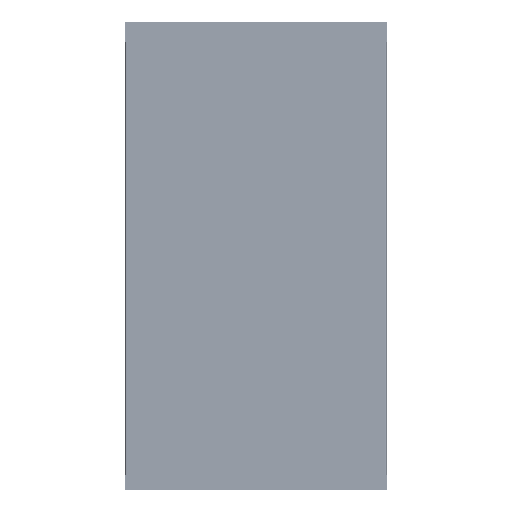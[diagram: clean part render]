
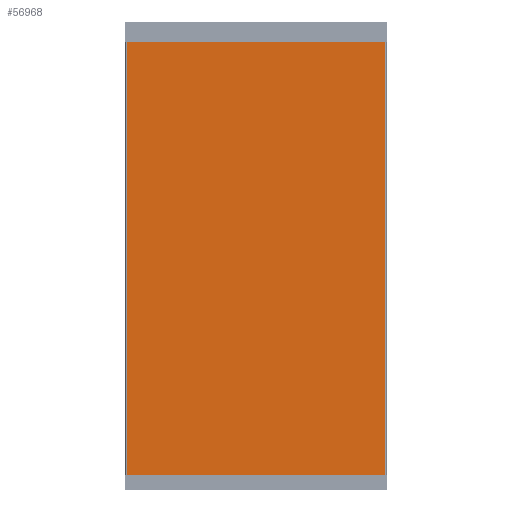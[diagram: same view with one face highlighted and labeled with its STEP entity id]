
A CAD part, front view. The second image highlights one B-rep face of the part: STEP entity #56968.
In plain terms, the highlighted planar face has unit normal (0, -1, 0).
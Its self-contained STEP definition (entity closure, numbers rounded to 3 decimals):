
#1170 = VERTEX_POINT ( 'NONE', #69106 ) ;
#2070 = CARTESIAN_POINT ( 'NONE',  ( -181.5, -2., 467.5 ) ) ;
#2471 = CARTESIAN_POINT ( 'NONE',  ( 168.5, -2., 467.5 ) ) ;
#2779 = CARTESIAN_POINT ( 'NONE',  ( 168.5, -2., 475. ) ) ;
#3852 = EDGE_CURVE ( 'NONE', #39085, #98981, #10652, .T. ) ;
#5085 = VERTEX_POINT ( 'NONE', #6771 ) ;
#5283 = ORIENTED_EDGE ( 'NONE', *, *, #3852, .F. ) ;
#6421 = AXIS2_PLACEMENT_3D ( 'NONE', #71845, #21351, #80336 ) ;
#6771 = CARTESIAN_POINT ( 'NONE',  ( 181.5, -2., 475. ) ) ;
#8157 = CARTESIAN_POINT ( 'NONE',  ( 175., -2., -460. ) ) ;
#8351 = DIRECTION ( 'NONE',  ( 0., 0., 1. ) ) ;
#8492 = VECTOR ( 'NONE', #49710, 1000. ) ;
#8770 = ORIENTED_EDGE ( 'NONE', *, *, #12267, .T. ) ;
#9320 = DIRECTION ( 'NONE',  ( 0., 0., -1. ) ) ;
#10239 = CARTESIAN_POINT ( 'NONE',  ( 175., -2., -466.5 ) ) ;
#10418 = CARTESIAN_POINT ( 'NONE',  ( -168.5, -2., 460. ) ) ;
#10545 = DIRECTION ( 'NONE',  ( 0., 0., -1. ) ) ;
#10652 = LINE ( 'NONE', #17781, #75270 ) ;
#11139 = LINE ( 'NONE', #108651, #8492 ) ;
#12267 = EDGE_CURVE ( 'NONE', #1170, #13888, #50795, .T. ) ;
#12292 = VERTEX_POINT ( 'NONE', #10239 ) ;
#12376 = EDGE_CURVE ( 'NONE', #45506, #13888, #73248, .T. ) ;
#12450 = VECTOR ( 'NONE', #32858, 1000. ) ;
#12583 = ORIENTED_EDGE ( 'NONE', *, *, #12376, .F. ) ;
#13054 = CIRCLE ( 'NONE', #44307, 6.5 ) ;
#13804 = VERTEX_POINT ( 'NONE', #97970 ) ;
#13888 = VERTEX_POINT ( 'NONE', #57431 ) ;
#14505 = ORIENTED_EDGE ( 'NONE', *, *, #30239, .T. ) ;
#14843 = ORIENTED_EDGE ( 'NONE', *, *, #90409, .T. ) ;
#16617 = DIRECTION ( 'NONE',  ( 0., 0., 1. ) ) ;
#17089 = VERTEX_POINT ( 'NONE', #53255 ) ;
#17460 = ORIENTED_EDGE ( 'NONE', *, *, #53588, .T. ) ;
#17643 = LINE ( 'NONE', #87069, #84945 ) ;
#17781 = CARTESIAN_POINT ( 'NONE',  ( 262.5, -2., 0. ) ) ;
#19842 = ORIENTED_EDGE ( 'NONE', *, *, #85511, .T. ) ;
#20862 = CARTESIAN_POINT ( 'NONE',  ( 262.5, -2., -475. ) ) ;
#21122 = DIRECTION ( 'NONE',  ( 0., 1., 0. ) ) ;
#21351 = DIRECTION ( 'NONE',  ( 0., 1., 0. ) ) ;
#22329 = VERTEX_POINT ( 'NONE', #43259 ) ;
#24887 = LINE ( 'NONE', #2070, #109260 ) ;
#26062 = PLANE ( 'NONE',  #34625 ) ;
#26766 = CARTESIAN_POINT ( 'NONE',  ( 262.5, -2., 475. ) ) ;
#26776 = DIRECTION ( 'NONE',  ( 0., 1., 0. ) ) ;
#27289 = VERTEX_POINT ( 'NONE', #10418 ) ;
#27385 = EDGE_CURVE ( 'NONE', #56480, #45506, #17643, .T. ) ;
#30239 = EDGE_CURVE ( 'NONE', #17089, #38067, #62080, .T. ) ;
#30855 = DIRECTION ( 'NONE',  ( 0., 1., 0. ) ) ;
#32858 = DIRECTION ( 'NONE',  ( 0., 0., 1. ) ) ;
#33171 = VERTEX_POINT ( 'NONE', #40952 ) ;
#34625 = AXIS2_PLACEMENT_3D ( 'NONE', #51147, #101983, #51502 ) ;
#37594 = DIRECTION ( 'NONE',  ( 0., 0., -1. ) ) ;
#38067 = VERTEX_POINT ( 'NONE', #53897 ) ;
#39009 = AXIS2_PLACEMENT_3D ( 'NONE', #81408, #30855, #89903 ) ;
#39085 = VERTEX_POINT ( 'NONE', #26766 ) ;
#40140 = ORIENTED_EDGE ( 'NONE', *, *, #27385, .F. ) ;
#40952 = CARTESIAN_POINT ( 'NONE',  ( -181.5, -2., 460. ) ) ;
#41320 = FACE_BOUND ( 'NONE', #63065, .T. ) ;
#43249 = ORIENTED_EDGE ( 'NONE', *, *, #56282, .F. ) ;
#43259 = CARTESIAN_POINT ( 'NONE',  ( -181.5, -2., 475. ) ) ;
#43346 = ORIENTED_EDGE ( 'NONE', *, *, #84715, .F. ) ;
#44307 = AXIS2_PLACEMENT_3D ( 'NONE', #71602, #21122, #80116 ) ;
#45506 = VERTEX_POINT ( 'NONE', #2779 ) ;
#47942 = LINE ( 'NONE', #106264, #90158 ) ;
#49114 = AXIS2_PLACEMENT_3D ( 'NONE', #109271, #58810, #8351 ) ;
#49710 = DIRECTION ( 'NONE',  ( 1., 0., 0. ) ) ;
#50795 = CIRCLE ( 'NONE', #97595, 6.5 ) ;
#51147 = CARTESIAN_POINT ( 'NONE',  ( 0., -2., 0. ) ) ;
#51502 = DIRECTION ( 'NONE',  ( 1., 0., 0. ) ) ;
#53102 = VECTOR ( 'NONE', #69705, 1000. ) ;
#53255 = CARTESIAN_POINT ( 'NONE',  ( -175., -2., -466.5 ) ) ;
#53470 = CARTESIAN_POINT ( 'NONE',  ( -168.5, -2., 475. ) ) ;
#53588 = EDGE_CURVE ( 'NONE', #27289, #33171, #101348, .T. ) ;
#53868 = DIRECTION ( 'NONE',  ( 1., 0., 0. ) ) ;
#53897 = CARTESIAN_POINT ( 'NONE',  ( -175., -2., -453.5 ) ) ;
#56282 = EDGE_CURVE ( 'NONE', #13804, #68540, #99454, .T. ) ;
#56480 = VERTEX_POINT ( 'NONE', #53470 ) ;
#56518 = VECTOR ( 'NONE', #108369, 1000. ) ;
#56968 = ADVANCED_FACE ( 'NONE', ( #105851, #83531, #41320 ), #26062, .F. ) ;
#57431 = CARTESIAN_POINT ( 'NONE',  ( 168.5, -2., 460. ) ) ;
#58810 = DIRECTION ( 'NONE',  ( 0., 1., 0. ) ) ;
#61432 = DIRECTION ( 'NONE',  ( 0., 0., -1. ) ) ;
#62080 = CIRCLE ( 'NONE', #39009, 6.5 ) ;
#63065 = EDGE_LOOP ( 'NONE', ( #14843, #14505 ) ) ;
#63510 = CARTESIAN_POINT ( 'NONE',  ( 175., -2., -453.5 ) ) ;
#64682 = EDGE_CURVE ( 'NONE', #79482, #12292, #108241, .T. ) ;
#65266 = VECTOR ( 'NONE', #37594, 1000. ) ;
#67135 = DIRECTION ( 'NONE',  ( 0., 1., 0. ) ) ;
#67942 = LINE ( 'NONE', #88098, #65266 ) ;
#68540 = VERTEX_POINT ( 'NONE', #77861 ) ;
#69106 = CARTESIAN_POINT ( 'NONE',  ( 181.5, -2., 460. ) ) ;
#69705 = DIRECTION ( 'NONE',  ( -1., 0., 0. ) ) ;
#70571 = ORIENTED_EDGE ( 'NONE', *, *, #64682, .T. ) ;
#71602 = CARTESIAN_POINT ( 'NONE',  ( -175., -2., -460. ) ) ;
#71845 = CARTESIAN_POINT ( 'NONE',  ( 175., -2., -460. ) ) ;
#72425 = DIRECTION ( 'NONE',  ( 1., 0., 0. ) ) ;
#73248 = LINE ( 'NONE', #2471, #87750 ) ;
#75270 = VECTOR ( 'NONE', #9320, 1000. ) ;
#75549 = LINE ( 'NONE', #103173, #53102 ) ;
#77320 = CARTESIAN_POINT ( 'NONE',  ( 175., -2., 460. ) ) ;
#77456 = EDGE_CURVE ( 'NONE', #22329, #33171, #24887, .T. ) ;
#77861 = CARTESIAN_POINT ( 'NONE',  ( -262.5, -2., 475. ) ) ;
#78929 = LINE ( 'NONE', #83000, #56518 ) ;
#79482 = VERTEX_POINT ( 'NONE', #63510 ) ;
#80116 = DIRECTION ( 'NONE',  ( 0., 0., 1. ) ) ;
#80336 = DIRECTION ( 'NONE',  ( 0., 0., 1. ) ) ;
#80897 = ORIENTED_EDGE ( 'NONE', *, *, #101734, .F. ) ;
#81408 = CARTESIAN_POINT ( 'NONE',  ( -175., -2., -460. ) ) ;
#81850 = ORIENTED_EDGE ( 'NONE', *, *, #104683, .T. ) ;
#82168 = ORIENTED_EDGE ( 'NONE', *, *, #104504, .T. ) ;
#83000 = CARTESIAN_POINT ( 'NONE',  ( 181.5, -2., 467.5 ) ) ;
#83276 = ORIENTED_EDGE ( 'NONE', *, *, #77456, .F. ) ;
#83531 = FACE_BOUND ( 'NONE', #85058, .T. ) ;
#84715 = EDGE_CURVE ( 'NONE', #98981, #13804, #75549, .T. ) ;
#84945 = VECTOR ( 'NONE', #53868, 1000. ) ;
#85058 = EDGE_LOOP ( 'NONE', ( #70571, #81850 ) ) ;
#85511 = EDGE_CURVE ( 'NONE', #56480, #27289, #67942, .T. ) ;
#85800 = DIRECTION ( 'NONE',  ( 0., 0., 1. ) ) ;
#87069 = CARTESIAN_POINT ( 'NONE',  ( 0., -2., 475. ) ) ;
#87750 = VECTOR ( 'NONE', #61432, 1000. ) ;
#88098 = CARTESIAN_POINT ( 'NONE',  ( -168.5, -2., 467.5 ) ) ;
#89903 = DIRECTION ( 'NONE',  ( 0., 0., 1. ) ) ;
#90158 = VECTOR ( 'NONE', #72425, 1000. ) ;
#90409 = EDGE_CURVE ( 'NONE', #38067, #17089, #13054, .T. ) ;
#90795 = CIRCLE ( 'NONE', #6421, 6.5 ) ;
#91887 = CARTESIAN_POINT ( 'NONE',  ( -262.5, -2., 0. ) ) ;
#92391 = AXIS2_PLACEMENT_3D ( 'NONE', #8157, #67135, #16617 ) ;
#96568 = EDGE_LOOP ( 'NONE', ( #19842, #17460, #83276, #98291, #43249, #43346, #5283, #80897, #82168, #8770, #12583, #40140 ) ) ;
#97595 = AXIS2_PLACEMENT_3D ( 'NONE', #77320, #26776, #85800 ) ;
#97970 = CARTESIAN_POINT ( 'NONE',  ( -262.5, -2., -475. ) ) ;
#98291 = ORIENTED_EDGE ( 'NONE', *, *, #100320, .F. ) ;
#98981 = VERTEX_POINT ( 'NONE', #20862 ) ;
#99454 = LINE ( 'NONE', #91887, #12450 ) ;
#100320 = EDGE_CURVE ( 'NONE', #68540, #22329, #11139, .T. ) ;
#101348 = CIRCLE ( 'NONE', #49114, 6.5 ) ;
#101734 = EDGE_CURVE ( 'NONE', #5085, #39085, #47942, .T. ) ;
#101983 = DIRECTION ( 'NONE',  ( 0., 1., 0. ) ) ;
#103173 = CARTESIAN_POINT ( 'NONE',  ( 0., -2., -475. ) ) ;
#104504 = EDGE_CURVE ( 'NONE', #5085, #1170, #78929, .T. ) ;
#104683 = EDGE_CURVE ( 'NONE', #12292, #79482, #90795, .T. ) ;
#105851 = FACE_OUTER_BOUND ( 'NONE', #96568, .T. ) ;
#106264 = CARTESIAN_POINT ( 'NONE',  ( 0., -2., 475. ) ) ;
#108241 = CIRCLE ( 'NONE', #92391, 6.5 ) ;
#108369 = DIRECTION ( 'NONE',  ( 0., 0., -1. ) ) ;
#108651 = CARTESIAN_POINT ( 'NONE',  ( 0., -2., 475. ) ) ;
#109260 = VECTOR ( 'NONE', #10545, 1000. ) ;
#109271 = CARTESIAN_POINT ( 'NONE',  ( -175., -2., 460. ) ) ;
